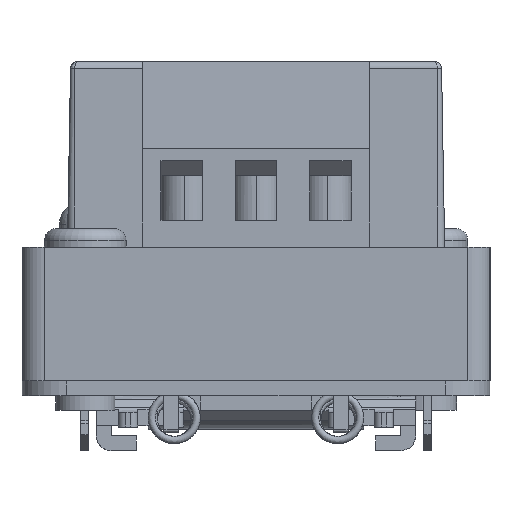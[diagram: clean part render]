
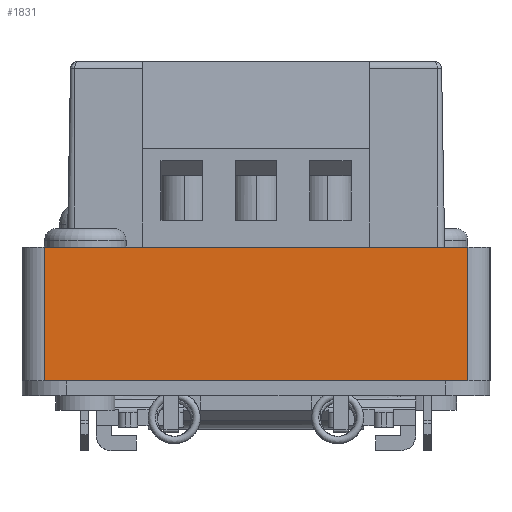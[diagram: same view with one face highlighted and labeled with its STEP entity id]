
A CAD part, left-side view. The second image highlights one B-rep face of the part: STEP entity #1831.
In plain terms, the highlighted planar face has unit normal (-1, 0, 0).
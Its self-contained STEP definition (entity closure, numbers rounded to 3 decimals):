
#1399=PLANE('',#8642);
#1831=ADVANCED_FACE('',(#2329),#1399,.F.);
#2329=FACE_OUTER_BOUND('',#2735,.T.);
#2735=EDGE_LOOP('',(#5097,#5098,#5099,#5100));
#3318=LINE('',#11584,#3997);
#3319=LINE('',#11587,#3998);
#3320=LINE('',#11589,#3999);
#3321=LINE('',#11591,#4000);
#3997=VECTOR('',#9688,1.);
#3998=VECTOR('',#9689,1.);
#3999=VECTOR('',#9690,1.);
#4000=VECTOR('',#9691,1.);
#5097=ORIENTED_EDGE('',*,*,#7509,.F.);
#5098=ORIENTED_EDGE('',*,*,#7510,.T.);
#5099=ORIENTED_EDGE('',*,*,#7511,.T.);
#5100=ORIENTED_EDGE('',*,*,#7512,.T.);
#6737=VERTEX_POINT('',#11585);
#6738=VERTEX_POINT('',#11586);
#6739=VERTEX_POINT('',#11588);
#6740=VERTEX_POINT('',#11590);
#7509=EDGE_CURVE('',#6737,#6738,#3318,.T.);
#7510=EDGE_CURVE('',#6737,#6739,#3319,.T.);
#7511=EDGE_CURVE('',#6739,#6740,#3320,.T.);
#7512=EDGE_CURVE('',#6740,#6738,#3321,.T.);
#8642=AXIS2_PLACEMENT_3D('',#11592,#9692,#9693);
#9688=DIRECTION('',(0.,-1.,0.));
#9689=DIRECTION('',(0.,0.,-1.));
#9690=DIRECTION('',(0.,-1.,0.));
#9691=DIRECTION('',(0.,0.,1.));
#9692=DIRECTION('',(1.,0.,0.));
#9693=DIRECTION('',(0.,-1.,0.));
#11584=CARTESIAN_POINT('',(-38.,-15.75,0.));
#11585=CARTESIAN_POINT('',(-38.,14.25,0.));
#11586=CARTESIAN_POINT('',(-38.,-14.25,0.));
#11587=CARTESIAN_POINT('',(-38.,14.25,0.));
#11588=CARTESIAN_POINT('',(-38.,14.25,-9.));
#11589=CARTESIAN_POINT('',(-38.,-15.75,-9.));
#11590=CARTESIAN_POINT('',(-38.,-14.25,-9.));
#11591=CARTESIAN_POINT('',(-38.,-14.25,0.));
#11592=CARTESIAN_POINT('',(-38.,-15.75,0.));
